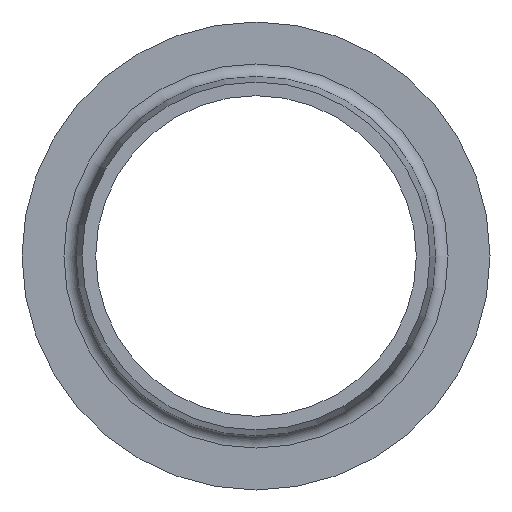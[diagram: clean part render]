
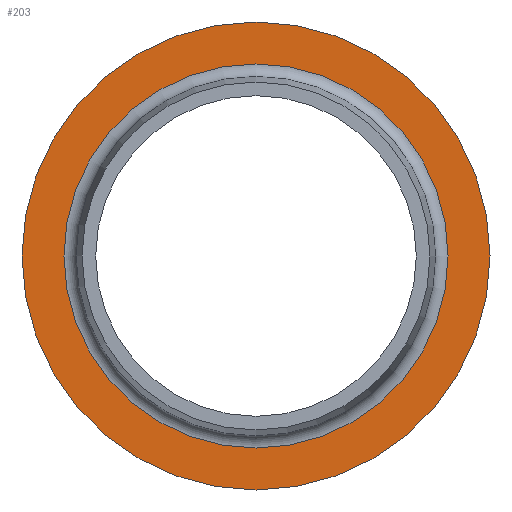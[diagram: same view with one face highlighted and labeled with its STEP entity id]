
A CAD part, left-side view. The second image highlights one B-rep face of the part: STEP entity #203.
In plain terms, the highlighted planar face has unit normal (-1, 0, 0).
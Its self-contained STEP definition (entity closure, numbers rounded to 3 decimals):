
#12=PLANE($,#227);
#29=FACE_BOUND($,#67,.T.);
#50=FACE_OUTER_BOUND($,#66,.T.);
#66=EDGE_LOOP($,(#151));
#67=EDGE_LOOP($,(#152));
#97=CIRCLE($,#226,60.737);
#98=CIRCLE($,#228,74.);
#114=VERTEX_POINT($,#334);
#115=VERTEX_POINT($,#337);
#131=EDGE_CURVE($,#114,#114,#97,.T.);
#132=EDGE_CURVE($,#115,#115,#98,.T.);
#151=ORIENTED_EDGE($,*,*,#132,.F.);
#152=ORIENTED_EDGE($,*,*,#131,.T.);
#203=ADVANCED_FACE($,(#50,#29),#12,.T.);
#226=AXIS2_PLACEMENT_3D($,#335,#268,#269);
#227=AXIS2_PLACEMENT_3D($,#336,#270,#271);
#228=AXIS2_PLACEMENT_3D($,#338,#272,#273);
#268=DIRECTION('center_axis',(1.,0.,0.));
#269=DIRECTION('ref_axis',(0.,1.,0.));
#270=DIRECTION('center_axis',(-1.,0.,0.));
#271=DIRECTION('ref_axis',(0.,0.,1.));
#272=DIRECTION('center_axis',(1.,0.,0.));
#273=DIRECTION('ref_axis',(0.,1.,0.));
#334=CARTESIAN_POINT('',(62.5,60.737,0.));
#335=CARTESIAN_POINT('Origin',(62.5,0.,0.));
#336=CARTESIAN_POINT('Origin',(62.5,67.368,0.));
#337=CARTESIAN_POINT('',(62.5,74.,0.));
#338=CARTESIAN_POINT('Origin',(62.5,0.,0.));
